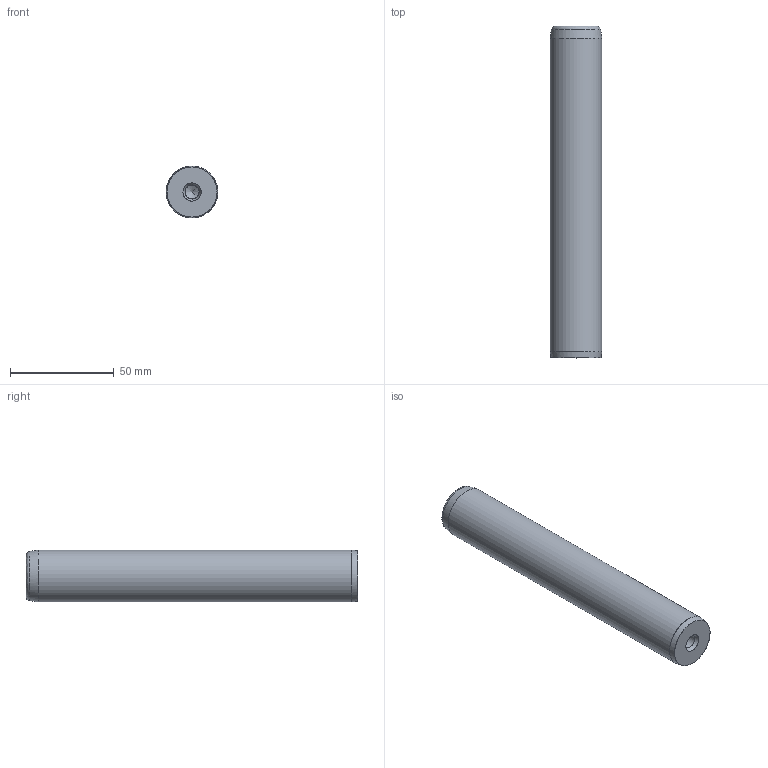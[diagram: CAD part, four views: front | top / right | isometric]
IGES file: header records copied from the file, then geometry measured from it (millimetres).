
Start section: Missler Software BP 521, 31674 Labege Cedex, France Tel   : +33 (0)5 61 00 03 00 Fax   : +33 (0)5 61 00 03 03 Email : sup.topsolid@topsolid.com
Global section: file name: D:\Cuma\D14\D14_25160.igs; native system: TopSolid v605250 Missler Software; preprocessor: IGES preprocessor v100000; date: 030120.192655; units: millimetre
Bounding box: 24.92 x 160 x 25 mm (x, y, z)
Surface area: 14517.8 mm2 (no closed solid volume)
Topology: 0 solids, 0 shells, 14 faces, 145 edges, 136 vertices
Faces by surface type: bspline 14
